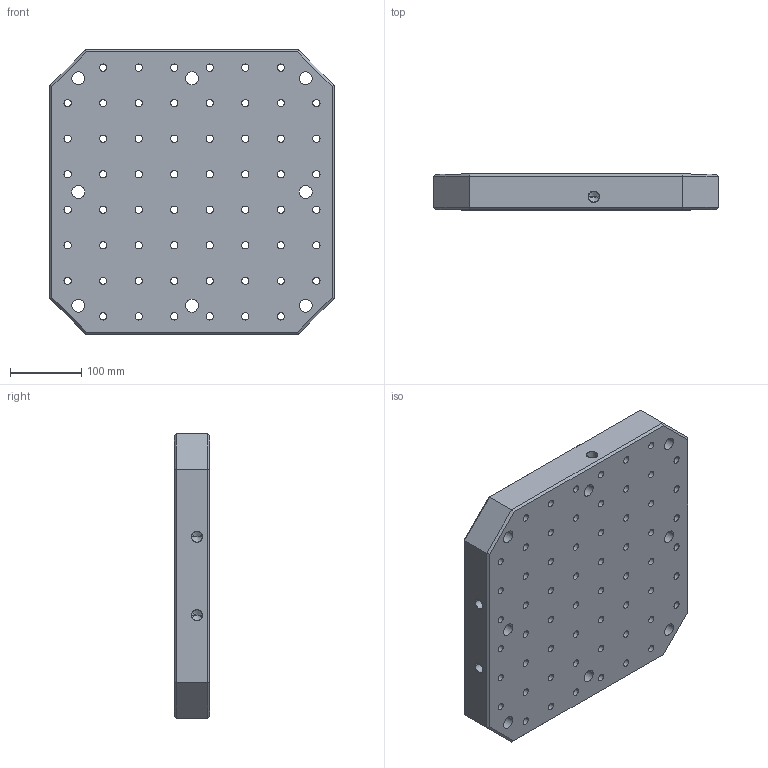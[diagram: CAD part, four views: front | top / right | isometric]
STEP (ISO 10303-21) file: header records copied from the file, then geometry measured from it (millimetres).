
FILE_DESCRIPTION((''),'2;1');
FILE_NAME('FG_WH_BASPL_SQGRDNP001','2026-05-19T10:19:00',('Admin'),(''),'CREO PARAMETRIC BY PTC INC, 2025010','CREO PARAMETRIC BY PTC INC, 2025010','');
FILE_SCHEMA(('CONFIG_CONTROL_DESIGN'));
Length unit declared in the file: millimetre
Products named in the file (1): FG_WH_BASPL_SQGRDNP001
Bounding box: 400 x 50 x 400 mm (x, y, z)
Volume: 7314320.8 mm3; surface area: 555457.4 mm2
Topology: 1 solids, 64 shells, 567 faces, 1406 edges, 969 vertices
Faces by surface type: cylinder 404, plane 157, cone 6
Entity records: 17614 total; most frequent: DIRECTION 3470, CARTESIAN_POINT 2937, ORIENTED_EDGE 2548, AXIS2_PLACEMENT_3D 1502, EDGE_CURVE 1400, VERTEX_POINT 969, CIRCLE 934, EDGE_LOOP 837
